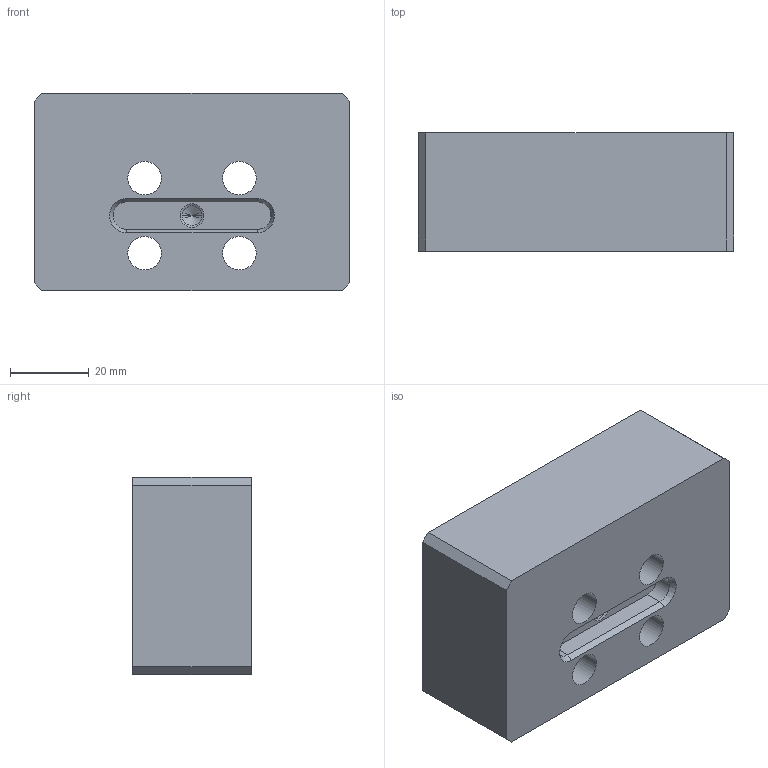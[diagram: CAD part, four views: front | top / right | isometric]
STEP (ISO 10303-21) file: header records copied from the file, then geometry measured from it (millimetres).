
FILE_DESCRIPTION((''),'2;1');
FILE_NAME('FG_VC_ACCES_SC028NP001','2026-03-06T16:35:23',('Admin'),(''),'CREO PARAMETRIC BY PTC INC, 2025010','CREO PARAMETRIC BY PTC INC, 2025010','');
FILE_SCHEMA(('CONFIG_CONTROL_DESIGN'));
Length unit declared in the file: millimetre
Products named in the file (1): FG_VC_ACCES_SC028NP001
Bounding box: 80 x 30 x 50 mm (x, y, z)
Volume: 107690.8 mm3; surface area: 19591 mm2
Topology: 1 solids, 1 shells, 45 faces, 106 edges, 67 vertices
Faces by surface type: cylinder 20, plane 19, cone 6
Entity records: 1340 total; most frequent: DIRECTION 238, CARTESIAN_POINT 216, ORIENTED_EDGE 208, EDGE_CURVE 104, AXIS2_PLACEMENT_3D 89, VERTEX_POINT 67, VECTOR 60, LINE 60
